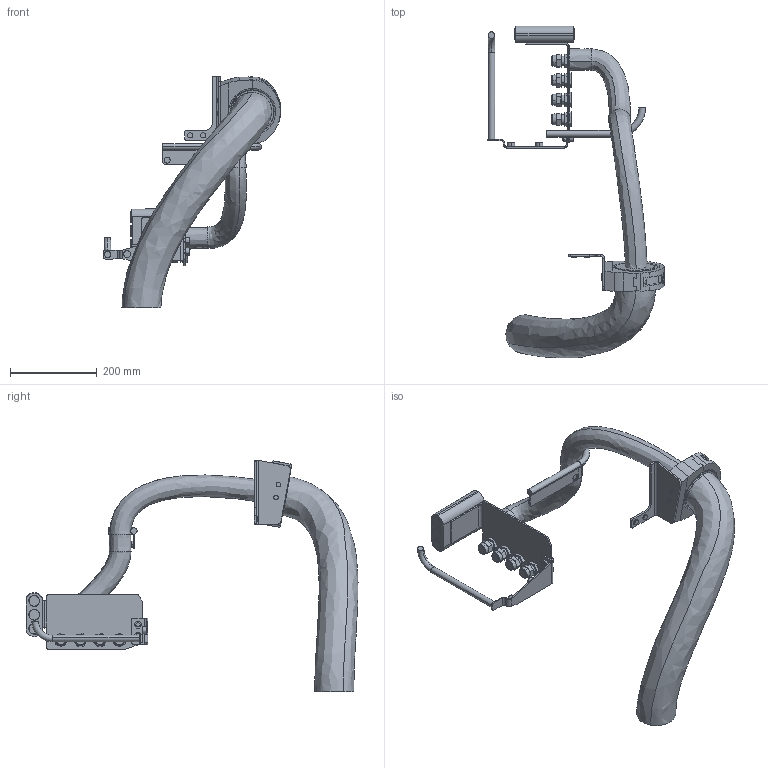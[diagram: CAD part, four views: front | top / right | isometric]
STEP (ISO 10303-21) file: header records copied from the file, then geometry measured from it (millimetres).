
FILE_DESCRIPTION (( 'STEP AP214' ), '1' );
FILE_NAME ('IRB77X0-LID-SW_All_OC_01_LINK03a_CABLE.step', '2026-01-28T12:47:38', ( '' ), ( '' ), 'SwSTEP 2.0', 'SolidWorks 2024', '' );
FILE_SCHEMA (( 'AUTOMOTIVE_DESIGN' ));
Length unit declared in the file: millimetre
Products named in the file (1): IRB77X0-LID-SW_All_OC_01_LINK03a_CABLE
Bounding box: 409.03 x 764.91 x 533 mm (x, y, z)
Volume: 6813984.1 mm3; surface area: 541797.4 mm2
Topology: 1 solids, 2 shells, 627 faces, 1575 edges, 1011 vertices
Faces by surface type: plane 309, cylinder 210, cone 74, bspline 16, sphere 14, torus 4
Entity records: 34352 total; most frequent: CARTESIAN_POINT 12525, ORIENTED_EDGE 3150, DIRECTION 3053, EDGE_CURVE 1575, AXIS2_PLACEMENT_3D 1130, VERTEX_POINT 1011, VECTOR 793, LINE 793
